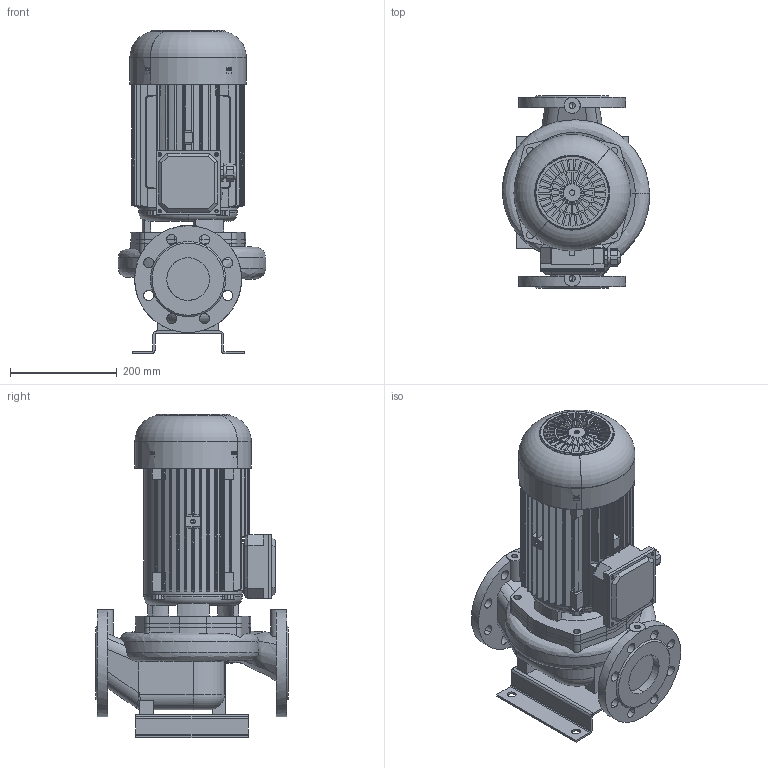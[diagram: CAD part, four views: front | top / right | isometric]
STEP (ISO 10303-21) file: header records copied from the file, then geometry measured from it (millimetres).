
FILE_DESCRIPTION(('STEP AP214'),'1');
FILE_NAME('export.stp','2018-05-29T07:07:38',(' '),(' '),'Spatial InterOp 3D',' ',' ');
FILE_SCHEMA(('AUTOMOTIVE_DESIGN { 1 0 10303 214 1 1 1 1 }'));
Length unit declared in the file: millimetre
Products named in the file (15): 440017; 440016; V_MKP112F19; 440015___; 440018; 440021; 480022; 480020; 480023; M25_Blind_Plug; M25_tiivisteholkk; W_L80A2400_KP112; V_TLL65AB80A1102; V_PPL80A; V_JALKA35973
Assembly tree (14 placements, depth 4):
  W_L80A2400_KP112
    V_MKP112F19
      440017
        440016
      440015___
      440018
      440021
      480022
      480020
      480023
      M25_Blind_Plug
      M25_tiivisteholkk
    V_TLL65AB80A1102
    V_PPL80A
    V_JALKA35973
Bounding box: 275.53 x 360 x 606.2 mm (x, y, z)
Volume: 8630709.6 mm3; surface area: 1621554.4 mm2
Topology: 12 solids, 12 shells, 1737 faces, 4907 edges, 3220 vertices
Faces by surface type: cylinder 869, plane 587, cone 126, torus 95, bspline 60
Entity records: 70868 total; most frequent: CARTESIAN_POINT 21054, ORIENTED_EDGE 9786, DIRECTION 9337, EDGE_CURVE 4893, AXIS2_PLACEMENT_3D 3555, VERTEX_POINT 3220, LINE 2227, VECTOR 2227
